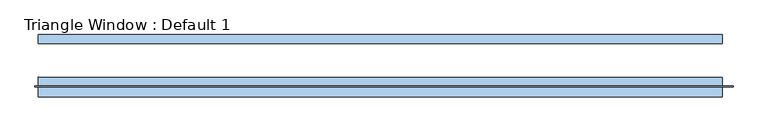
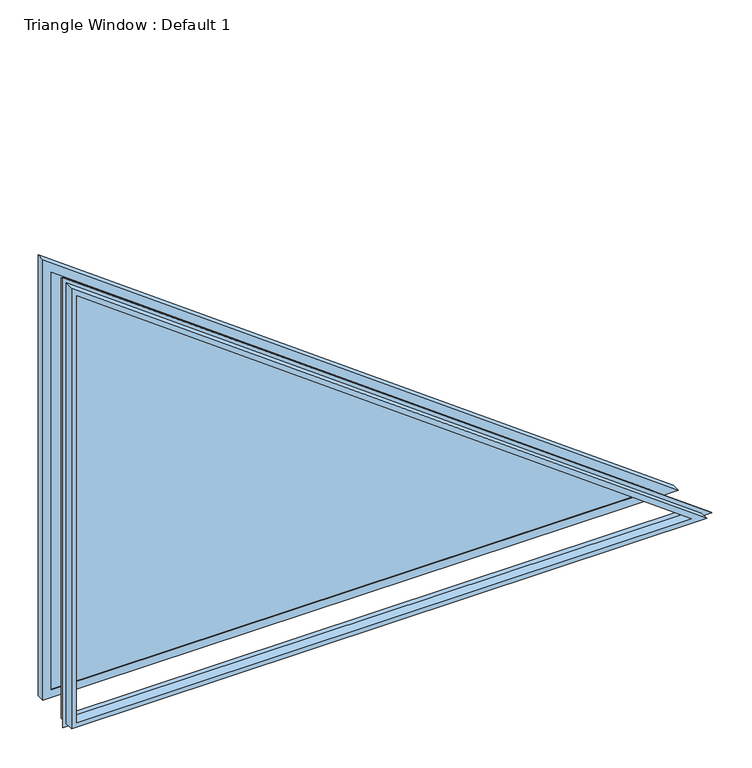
"""IFC4 building model written with IfcOpenShell, lengths in millimetres: window geometry, Triangle Window : Default 1."""

import ifcopenshell
import ifcopenshell.guid

model = None  # the IFC model being written
_history = None  # IfcOwnerHistory: only IFC2X3 demands one
_inside = {}  # id of a spatial element -> (the spatial element, [elements in it])
_under = {}  # id of a project, library or spatial element -> (it, [spatial elements below it])
_declared = {}  # id of a project -> (the project, [libraries it declares])
_typed = {}  # id of a type object -> (the type object, [elements of that type])
_made_of = {}  # id of a material, layer set ... -> (it, [elements and type objects made of it])


def new_model(schema):
    """Start an empty IFC model of exactly this schema.

    Asked for "IFC4X3", IfcOpenShell would pick the latest addendum, in which some entities
    have other attributes; the version numbers below select the first issue.
    IFC2X3 requires an IfcOwnerHistory on every rooted entity: one is made here for all.
    """
    global model, _history
    if schema == "IFC4X3":
        model = ifcopenshell.file(schema_version=(4, 3, 0, 0))
    else:
        model = ifcopenshell.file(schema=schema)
    _inside.clear()
    _under.clear()
    _declared.clear()
    _typed.clear()
    _made_of.clear()
    _history = None
    if model.schema == "IFC2X3":
        org = make("IfcOrganization", Name="unknown")
        user = make(
            "IfcPersonAndOrganization",
            ThePerson=make("IfcPerson", FamilyName="unknown"),
            TheOrganization=org,
        )
        app = make(
            "IfcApplication",
            ApplicationDeveloper=org,
            Version="unknown",
            ApplicationFullName="unknown",
            ApplicationIdentifier="unknown",
        )
        _history = make(
            "IfcOwnerHistory",
            OwningUser=user,
            OwningApplication=app,
            ChangeAction="ADDED",
            CreationDate=0,
        )
    return model


def make(cls, **values):
    """One entity of the class cls with the attributes given. An attribute that is None is left unset."""
    return model.create_entity(
        cls, **{name: value for name, value in values.items() if value is not None}
    )


def rooted(cls, **values):
    """An entity with a GlobalId (a new one), such as an element, a storey or a relation."""
    return make(cls, GlobalId=ifcopenshell.guid.new(), OwnerHistory=_history, **values)


def si_unit(unit_type, name, prefix=None):
    """IfcSIUnit, for example si_unit("LENGTHUNIT", "METRE", prefix="MILLI")."""
    return make("IfcSIUnit", UnitType=unit_type, Prefix=prefix, Name=name)


def assignment(units):
    """IfcUnitAssignment: the units of a project."""
    return None if units is None else make("IfcUnitAssignment", Units=units)


def point(xyz):
    """IfcCartesianPoint."""
    return None if xyz is None else make("IfcCartesianPoint", Coordinates=xyz)


def direction(xyz):
    """IfcDirection."""
    return None if xyz is None else make("IfcDirection", DirectionRatios=xyz)


def frame(location, z_axis=None, x_axis=None):
    """IfcAxis2Placement3D, a coordinate frame: its origin and axes. An axis left out is left unset."""
    return make(
        "IfcAxis2Placement3D",
        Location=point(location),
        Axis=direction(z_axis),
        RefDirection=direction(x_axis),
    )


def origin():
    """The frame at (0, 0, 0) with its axes left unset."""
    return frame((0.0, 0.0, 0.0))


def place(relative_to, where):
    """IfcLocalPlacement: puts the frame where relative to a parent placement (None: the world)."""
    return make(
        "IfcLocalPlacement", PlacementRelTo=relative_to, RelativePlacement=where
    )


def context(
    kind, dimensions, precision=None, world=None, true_north=None, identifier=None
):
    """IfcGeometricRepresentationContext, for example the 3D "Model" context."""
    return make(
        "IfcGeometricRepresentationContext",
        ContextIdentifier=identifier,
        ContextType=kind,
        CoordinateSpaceDimension=dimensions,
        Precision=precision,
        WorldCoordinateSystem=world,
        TrueNorth=true_north,
    )


def project(units=None, contexts=None):
    """IfcProject with its units and contexts."""
    return rooted(
        "IfcProject",
        Name="project",
        RepresentationContexts=contexts,
        UnitsInContext=assignment(units),
    )


def spatial(cls, under=None, at=None, **own):
    """A site, building, storey or space (cls), placed at a placement, below another one or the project."""
    s = rooted(cls, ObjectPlacement=at, **own)
    if under is not None:
        _under.setdefault(under.id(), (under, []))[1].append(s)
    return s


def polyline(points):
    """IfcPolyline through the points."""
    return make("IfcPolyline", Points=[point(p) for p in points])


def outline(outer, holes=None, kind="AREA"):
    """IfcArbitraryClosedProfileDef: a profile drawn as a closed curve; with holes, ...WithVoids."""
    if holes is None:
        return make("IfcArbitraryClosedProfileDef", ProfileType=kind, OuterCurve=outer)
    return make(
        "IfcArbitraryProfileDefWithVoids",
        ProfileType=kind,
        OuterCurve=outer,
        InnerCurves=holes,
    )


def extrude(swept, where, along, depth):
    """IfcExtrudedAreaSolid: the profile swept, set in the frame where, extruded along a direction by depth."""
    return make(
        "IfcExtrudedAreaSolid",
        SweptArea=swept,
        Position=where,
        ExtrudedDirection=direction(along),
        Depth=depth,
    )


def faces_of(points, faces, orient=None, outer=None):
    """IfcFace entities. A face is a list of loops; a loop is a list of indices into points, from 0.

    orient and outer hold one flag for each loop. By default every Orientation is true, the
    first loop of a face is its IfcFaceOuterBound and the others are IfcFaceBound.
    """
    made = []
    for i, loops in enumerate(faces):
        bounds = []
        for j, loop in enumerate(loops):
            is_outer = j == 0 if outer is None else outer[i][j]
            bounds.append(
                make(
                    "IfcFaceOuterBound" if is_outer else "IfcFaceBound",
                    Bound=make("IfcPolyLoop", Polygon=[points[k] for k in loop]),
                    Orientation=True if orient is None else orient[i][j],
                )
            )
        made.append(make("IfcFace", Bounds=bounds))
    return made


def faceted_brep(points, faces, orient=None, outer=None, voids=None):
    """IfcFacetedBrep: a solid bounded by flat faces; with voids (closed shells), ...WithVoids."""
    shared = [point(p) for p in points]
    hull = make("IfcClosedShell", CfsFaces=faces_of(shared, faces, orient, outer))
    if voids is None:
        return make("IfcFacetedBrep", Outer=hull)
    return make(
        "IfcFacetedBrepWithVoids",
        Outer=hull,
        Voids=[
            make(cls, CfsFaces=faces_of(shared, fs, o, b)) for cls, fs, o, b in voids
        ],
    )


def shape(context_of_items, identifier, shape_type, items):
    """IfcShapeRepresentation: the items that make up one representation, for example the "Body"."""
    return make(
        "IfcShapeRepresentation",
        ContextOfItems=context_of_items,
        RepresentationIdentifier=identifier,
        RepresentationType=shape_type,
        Items=items,
    )


def source(mapping_origin, context_of_items, identifier, shape_type, items):
    """IfcRepresentationMap: a shape defined once, which mapped items show again and again."""
    return make(
        "IfcRepresentationMap",
        MappingOrigin=mapping_origin,
        MappedRepresentation=shape(context_of_items, identifier, shape_type, items),
    )


def transform(
    local_origin,
    x_axis=None,
    y_axis=None,
    z_axis=None,
    scale=None,
    scale2=None,
    scale3=None,
    uniform=True,
):
    """IfcCartesianTransformationOperator3D, or its non-uniform kind. x_axis, y_axis, z_axis: its Axis1, 2, 3."""
    if uniform:
        return make(
            "IfcCartesianTransformationOperator3D",
            Axis1=direction(x_axis),
            Axis2=direction(y_axis),
            LocalOrigin=point(local_origin),
            Scale=scale,
            Axis3=direction(z_axis),
        )
    return make(
        "IfcCartesianTransformationOperator3DnonUniform",
        Axis1=direction(x_axis),
        Axis2=direction(y_axis),
        LocalOrigin=point(local_origin),
        Scale=scale,
        Axis3=direction(z_axis),
        Scale2=scale2,
        Scale3=scale3,
    )


def mapped(mapping_source, mapping_target):
    """IfcMappedItem: shows the shape of a source again, moved by a transform."""
    return make(
        "IfcMappedItem", MappingSource=mapping_source, MappingTarget=mapping_target
    )


def made_of(thing, what):
    """Note that an element or type object is made of a material, layer set ...; save() writes the relation."""
    if what is not None:
        _made_of.setdefault(what.id(), (what, []))[1].append(thing)
    return thing


def element(
    cls,
    number,
    at=None,
    inside=None,
    cuts=None,
    type_object=None,
    material=None,
    context=None,
    identifier="Body",
    shape_type=None,
    held_by="IfcProductDefinitionShape",
    body=None,
    shapes=None,
    **own,
):
    """One element of the class cls, such as IfcWall. Its Tag is "e" and its number.

    at: its placement. inside: the storey or other place that contains it. cuts: it is an
    opening in that element (IfcRelVoidsElement). A single representation is given by context,
    identifier, shape_type and body (its items); several are given by shapes. held_by: the class
    of the entity that holds the representations. save() writes the other relations.
    """
    e = rooted(cls, Tag="e%d" % number, ObjectPlacement=at, **own)
    if body is not None:
        shapes = [shape(context, identifier, shape_type, body)]
    if shapes is not None:
        e.Representation = make(held_by, Representations=shapes)
    if inside is not None:
        _inside.setdefault(inside.id(), (inside, []))[1].append(e)
    if cuts is not None:
        rooted(
            "IfcRelVoidsElement", RelatingBuildingElement=cuts, RelatedOpeningElement=e
        )
    if type_object is not None:
        _typed.setdefault(type_object.id(), (type_object, []))[1].append(e)
    return made_of(e, material)


def aggregate(whole, parts):
    """IfcRelAggregates: a whole, such as a stair, and the parts it consists of."""
    return rooted("IfcRelAggregates", RelatingObject=whole, RelatedObjects=parts)


def save(model, path):
    """Write the relations noted so far, then the file.

    IfcRelAggregates (storeys below a building ...), IfcRelContainedInSpatialStructure (elements
    in a storey), IfcRelDefinesByType, IfcRelAssociatesMaterial and IfcRelDeclares: one each for
    every whole, place, type object, material and project.
    """
    for whole, parts in _under.values():
        aggregate(whole, parts)
    for where, things in _inside.values():
        rooted(
            "IfcRelContainedInSpatialStructure",
            RelatedElements=things,
            RelatingStructure=where,
        )
    for kind, things in _typed.values():
        rooted("IfcRelDefinesByType", RelatedObjects=things, RelatingType=kind)
    for what, things in _made_of.values():
        rooted("IfcRelAssociatesMaterial", RelatedObjects=things, RelatingMaterial=what)
    for by, libraries in _declared.values():
        rooted("IfcRelDeclares", RelatingContext=by, RelatedDefinitions=libraries)
    model.write(path)


def triangle_window_default_1_2b364ab3(model_context):
    return source(origin(), model_context, "Body", "SolidModel", [
        extrude(outline(polyline([(2639.6584466, -1339.85), (946.15, -1339.85), (946.15, 969.8040921), (2639.6584466, -1339.85)])), frame((0.0, 78.58125, 0.0), z_axis=(0.0, 1.0, 0.0), x_axis=(0.0, 0.0, 1.0)), (0.0, 0.0, 1.0), 3.175),
        extrude(outline(polyline([(2639.6584466, -1339.85), (946.15, -1339.85), (946.15, 969.8040921), (2639.6584466, -1339.85)])), frame((0.0, 56.35625, 0.0), z_axis=(0.0, 1.0, 0.0), x_axis=(0.0, 0.0, 1.0)), (0.0, 0.0, 1.0), 3.175),
        extrude(outline(polyline([(914.4, 1066.8), (2702.3088519, -1371.6), (914.4, -1371.6), (914.4, 1066.8)]), holes=[polyline([(946.15, 969.8040921), (946.15, -1339.85), (2639.6584466, -1339.85), (946.15, 969.8040921)])]), frame((0.0, 53.18125, 0.0), z_axis=(0.0, 1.0, 0.0), x_axis=(0.0, 0.0, 1.0)), (0.0, 0.0, 1.0), 31.75),
        faceted_brep([(-1371.6, -136.525, 914.4), (-1371.6, -101.6, 914.4), (1066.8, -101.6, 914.4), (1066.8, -136.525, 914.4), (-1371.6, -101.6, 2702.3088519), (-1371.6, -136.525, 2702.3088519), (-1384.3, -101.6, 2727.3690141), (-1384.3, -101.6, 901.7), (1105.5983632, -101.6, 901.7), (-1352.55, -136.525, 2664.7186087), (1008.6024553, -136.525, 933.45), (-1352.55, -136.525, 933.45), (1008.6024553, -98.425, 933.45), (-1352.55, -98.425, 2664.7186087), (-1352.55, -98.425, 933.45), (1036.8944899, -66.675, 924.1890722), (-1361.8109278, -66.675, 2682.9926522), (-1361.8109278, -66.675, 924.1890722), (-1371.6, -66.675, 2702.3088519), (1066.8, -66.675, 914.4), (-1371.6, -66.675, 914.4), (1066.8, -98.425, 914.4), (-1371.6, -98.425, 2702.3088519), (-1371.6, -98.425, 914.4), (-1384.3, -98.425, 2727.3690141), (1105.5983632, -98.425, 901.7), (-1384.3, -98.425, 901.7)], [[[0, 1, 2, 3]], [[3, 2, 4, 5]], [[6, 7, 8], [4, 2, 1]], [[5, 0, 3], [9, 10, 11]], [[12, 10, 9, 13]], [[14, 11, 10, 12]], [[13, 9, 11, 14]], [[5, 4, 1, 0]], [[15, 12, 13, 16]], [[17, 14, 12, 15]], [[18, 19, 20], [16, 17, 15]], [[21, 19, 18, 22]], [[23, 20, 19, 21]], [[22, 18, 20, 23]], [[16, 13, 14, 17]], [[24, 25, 26], [22, 23, 21]], [[8, 25, 24, 6]], [[7, 26, 25, 8]], [[6, 24, 26, 7]]]),
    ])


if __name__ == "__main__":
    model = new_model("IFC4")
    model_context = context("Model", 3, world=origin())
    ifc_project = project(units=[si_unit("LENGTHUNIT", "METRE", prefix="MILLI")], contexts=[model_context])
    site = spatial("IfcSite", under=ifc_project)
    building = spatial("IfcBuilding", under=site)
    placement = place(None, origin())
    triangle_window_default_1_shape = triangle_window_default_1_2b364ab3(model_context)
    element("IfcWindow", 1, ObjectType="Triangle Window : Default 1", at=placement, inside=building, context=model_context, shape_type="MappedRepresentation", body=[
        mapped(triangle_window_default_1_shape, transform((0.0, 0.0, 0.0), x_axis=(1.0, 0.0, 0.0), y_axis=(0.0, 1.0, 0.0), z_axis=(0.0, 0.0, 1.0))),
    ])
    save(model, "model.ifc")
